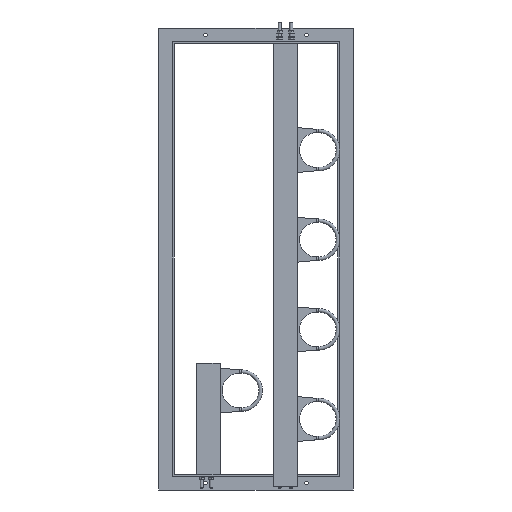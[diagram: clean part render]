
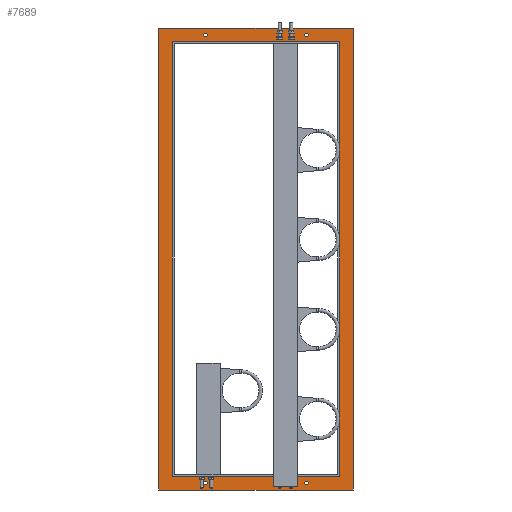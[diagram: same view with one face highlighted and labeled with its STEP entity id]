
A CAD part, front view. The second image highlights one B-rep face of the part: STEP entity #7689.
In plain terms, the highlighted planar face has unit normal (0, -1, 0).
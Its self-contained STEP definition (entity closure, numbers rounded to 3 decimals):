
#6137 = CARTESIAN_POINT ( 'NONE',  ( 339., -5., -1127. ) ) ;
#6138 = DIRECTION ( 'NONE',  ( 0., 1., 0. ) ) ;
#6139 = DIRECTION ( 'NONE',  ( 1., 0., 0. ) ) ;
#6174 = CARTESIAN_POINT ( 'NONE',  ( 339., -5., 22. ) ) ;
#6175 = DIRECTION ( 'NONE',  ( 0., 1., 0. ) ) ;
#6176 = DIRECTION ( 'NONE',  ( 1., 0., 0. ) ) ;
#6189 = CARTESIAN_POINT ( 'NONE',  ( 80., -5., 22. ) ) ;
#6190 = DIRECTION ( 'NONE',  ( 0., 1., 0. ) ) ;
#6191 = DIRECTION ( 'NONE',  ( 1., 0., 0. ) ) ;
#6207 = CARTESIAN_POINT ( 'NONE',  ( 80., -5., -1127. ) ) ;
#6208 = DIRECTION ( 'NONE',  ( 0., 1., 0. ) ) ;
#6209 = DIRECTION ( 'NONE',  ( 1., 0., 0. ) ) ;
#6248 = CARTESIAN_POINT ( 'NONE',  ( -5., -5., -1110. ) ) ;
#6249 = DIRECTION ( 'NONE',  ( 1., 0., 0. ) ) ;
#6668 = CARTESIAN_POINT ( 'NONE',  ( 459., -5., 40. ) ) ;
#6670 = DIRECTION ( 'NONE',  ( -1., 0., 0. ) ) ;
#7689 = ADVANCED_FACE ( 'NONE', ( #10562, #10566, #10563, #10565, #10564, #10567 ), #19388, .T. ) ;
#7753 = VERTEX_POINT ( 'NONE', #18331 ) ;
#7760 = VERTEX_POINT ( 'NONE', #18894 ) ;
#7782 = VERTEX_POINT ( 'NONE', #19107 ) ;
#7789 = VERTEX_POINT ( 'NONE', #18708 ) ;
#7829 = VERTEX_POINT ( 'NONE', #18298 ) ;
#7854 = VERTEX_POINT ( 'NONE', #18567 ) ;
#7929 = VERTEX_POINT ( 'NONE', #19233 ) ;
#8092 = VERTEX_POINT ( 'NONE', #19280 ) ;
#8100 = VERTEX_POINT ( 'NONE', #18646 ) ;
#8113 = VERTEX_POINT ( 'NONE', #18571 ) ;
#8251 = VERTEX_POINT ( 'NONE', #18886 ) ;
#9432 = AXIS2_PLACEMENT_3D ( 'NONE', #6137, #6138, #6139 ) ;
#9439 = AXIS2_PLACEMENT_3D ( 'NONE', #6174, #6175, #6176 ) ;
#9443 = AXIS2_PLACEMENT_3D ( 'NONE', #6189, #6190, #6191 ) ;
#9447 = AXIS2_PLACEMENT_3D ( 'NONE', #6207, #6208, #6209 ) ;
#9567 = AXIS2_PLACEMENT_3D ( 'NONE', #25169, #25170, #25171 ) ;
#9590 = AXIS2_PLACEMENT_3D ( 'NONE', #25315, #25316, #25317 ) ;
#9592 = AXIS2_PLACEMENT_3D ( 'NONE', #25324, #25325, #25326 ) ;
#9594 = AXIS2_PLACEMENT_3D ( 'NONE', #25358, #25359, #25360 ) ;
#10562 = FACE_BOUND ( 'NONE', #23168, .T. ) ;
#10563 = FACE_BOUND ( 'NONE', #23143, .T. ) ;
#10564 = FACE_BOUND ( 'NONE', #23159, .T. ) ;
#10565 = FACE_BOUND ( 'NONE', #23014, .T. ) ;
#10566 = FACE_BOUND ( 'NONE', #23172, .T. ) ;
#10567 = FACE_OUTER_BOUND ( 'NONE', #23160, .T. ) ;
#15226 = CARTESIAN_POINT ( 'NONE',  ( 80., -5., -1131.5 ) ) ;
#15237 = CARTESIAN_POINT ( 'NONE',  ( -5., -5., 5. ) ) ;
#15239 = CARTESIAN_POINT ( 'NONE',  ( 80., -5., 17.5 ) ) ;
#15252 = CARTESIAN_POINT ( 'NONE',  ( -40., -5., -1145. ) ) ;
#15275 = CARTESIAN_POINT ( 'NONE',  ( 424., -5., -1110. ) ) ;
#16871 = CIRCLE ( 'NONE', #9432, 4.5 ) ;
#16914 = CIRCLE ( 'NONE', #9439, 4.5 ) ;
#16922 = CIRCLE ( 'NONE', #9443, 4.5 ) ;
#16941 = CIRCLE ( 'NONE', #9447, 4.5 ) ;
#16990 = LINE ( 'NONE', #6248, #16994 ) ;
#16994 = VECTOR ( 'NONE', #6249, 1000. ) ;
#17286 = LINE ( 'NONE', #6668, #17288 ) ;
#17288 = VECTOR ( 'NONE', #6670, 1000. ) ;
#17644 = LINE ( 'NONE', #25154, #17650 ) ;
#17650 = VECTOR ( 'NONE', #25155, 1000. ) ;
#17659 = CIRCLE ( 'NONE', #9567, 4.5 ) ;
#17661 = LINE ( 'NONE', #25165, #17668 ) ;
#17668 = VECTOR ( 'NONE', #25167, 1000. ) ;
#17774 = LINE ( 'NONE', #25263, #17782 ) ;
#17782 = VECTOR ( 'NONE', #25271, 1000. ) ;
#17801 = LINE ( 'NONE', #25303, #24455 ) ;
#18298 = CARTESIAN_POINT ( 'NONE',  ( 424., -5., 5. ) ) ;
#18302 = DIRECTION ( 'NONE',  ( 1., 0., 0. ) ) ;
#18313 = DIRECTION ( 'NONE',  ( 0., -1., 0. ) ) ;
#18331 = CARTESIAN_POINT ( 'NONE',  ( 339., -5., 26.5 ) ) ;
#18567 = CARTESIAN_POINT ( 'NONE',  ( 459., -5., 40. ) ) ;
#18571 = CARTESIAN_POINT ( 'NONE',  ( -40., -5., 40. ) ) ;
#18646 = CARTESIAN_POINT ( 'NONE',  ( -5., -5., -1110. ) ) ;
#18708 = CARTESIAN_POINT ( 'NONE',  ( 80., -5., -1122.5 ) ) ;
#18886 = CARTESIAN_POINT ( 'NONE',  ( 339., -5., 17.5 ) ) ;
#18894 = CARTESIAN_POINT ( 'NONE',  ( 459., -5., -1145. ) ) ;
#19107 = CARTESIAN_POINT ( 'NONE',  ( 339., -5., -1122.5 ) ) ;
#19233 = CARTESIAN_POINT ( 'NONE',  ( 80., -5., 26.5 ) ) ;
#19280 = CARTESIAN_POINT ( 'NONE',  ( 339., -5., -1131.5 ) ) ;
#19325 = CARTESIAN_POINT ( 'NONE',  ( -5., -5., -1258.137 ) ) ;
#19388 = PLANE ( 'NONE',  #24675 ) ;
#21162 = ORIENTED_EDGE ( 'NONE', *, *, #25949, .T. ) ;
#21175 = ORIENTED_EDGE ( 'NONE', *, *, #26156, .T. ) ;
#21176 = ORIENTED_EDGE ( 'NONE', *, *, #26124, .T. ) ;
#21177 = ORIENTED_EDGE ( 'NONE', *, *, #26135, .F. ) ;
#21178 = ORIENTED_EDGE ( 'NONE', *, *, #26157, .F. ) ;
#21179 = ORIENTED_EDGE ( 'NONE', *, *, #26080, .F. ) ;
#21180 = ORIENTED_EDGE ( 'NONE', *, *, #26085, .T. ) ;
#21181 = ORIENTED_EDGE ( 'NONE', *, *, #25818, .F. ) ;
#21182 = ORIENTED_EDGE ( 'NONE', *, *, #25793, .T. ) ;
#21183 = ORIENTED_EDGE ( 'NONE', *, *, #26086, .T. ) ;
#21213 = ORIENTED_EDGE ( 'NONE', *, *, #25789, .T. ) ;
#21214 = ORIENTED_EDGE ( 'NONE', *, *, #25775, .T. ) ;
#21215 = ORIENTED_EDGE ( 'NONE', *, *, #26149, .T. ) ;
#21224 = ORIENTED_EDGE ( 'NONE', *, *, #25800, .T. ) ;
#21251 = ORIENTED_EDGE ( 'NONE', *, *, #26137, .T. ) ;
#21254 = ORIENTED_EDGE ( 'NONE', *, *, #26139, .T. ) ;
#23014 = EDGE_LOOP ( 'NONE', ( #21183, #21182 ) ) ;
#23143 = EDGE_LOOP ( 'NONE', ( #21215, #21224 ) ) ;
#23159 = EDGE_LOOP ( 'NONE', ( #21181, #21180, #21179, #21178 ) ) ;
#23160 = EDGE_LOOP ( 'NONE', ( #21177, #21176, #21175, #21162 ) ) ;
#23168 = EDGE_LOOP ( 'NONE', ( #21254, #21213 ) ) ;
#23172 = EDGE_LOOP ( 'NONE', ( #21251, #21214 ) ) ;
#24455 = VECTOR ( 'NONE', #25312, 1000. ) ;
#24456 = CIRCLE ( 'NONE', #9590, 4.5 ) ;
#24460 = CIRCLE ( 'NONE', #9592, 4.5 ) ;
#24473 = CIRCLE ( 'NONE', #9594, 4.5 ) ;
#24481 = LINE ( 'NONE', #25382, #24484 ) ;
#24483 = LINE ( 'NONE', #25384, #24486 ) ;
#24484 = VECTOR ( 'NONE', #25383, 1000. ) ;
#24486 = VECTOR ( 'NONE', #25385, 1000. ) ;
#24675 = AXIS2_PLACEMENT_3D ( 'NONE', #19325, #18313, #18302 ) ;
#25154 = CARTESIAN_POINT ( 'NONE',  ( 424., -5., 5. ) ) ;
#25155 = DIRECTION ( 'NONE',  ( -1., 0., 0. ) ) ;
#25165 = CARTESIAN_POINT ( 'NONE',  ( -5., -5., -1258.137 ) ) ;
#25167 = DIRECTION ( 'NONE',  ( 0., 0., 1. ) ) ;
#25169 = CARTESIAN_POINT ( 'NONE',  ( 80., -5., 22. ) ) ;
#25170 = DIRECTION ( 'NONE',  ( 0., 1., 0. ) ) ;
#25171 = DIRECTION ( 'NONE',  ( 1., 0., 0. ) ) ;
#25263 = CARTESIAN_POINT ( 'NONE',  ( -40., -5., -1145. ) ) ;
#25271 = DIRECTION ( 'NONE',  ( 1., 0., 0. ) ) ;
#25303 = CARTESIAN_POINT ( 'NONE',  ( -40., -5., -1258.137 ) ) ;
#25312 = DIRECTION ( 'NONE',  ( 0., 0., 1. ) ) ;
#25315 = CARTESIAN_POINT ( 'NONE',  ( 339., -5., -1127. ) ) ;
#25316 = DIRECTION ( 'NONE',  ( 0., 1., 0. ) ) ;
#25317 = DIRECTION ( 'NONE',  ( 1., 0., 0. ) ) ;
#25324 = CARTESIAN_POINT ( 'NONE',  ( 339., -5., 22. ) ) ;
#25325 = DIRECTION ( 'NONE',  ( 0., 1., 0. ) ) ;
#25326 = DIRECTION ( 'NONE',  ( 1., 0., 0. ) ) ;
#25358 = CARTESIAN_POINT ( 'NONE',  ( 80., -5., -1127. ) ) ;
#25359 = DIRECTION ( 'NONE',  ( 0., 1., 0. ) ) ;
#25360 = DIRECTION ( 'NONE',  ( 1., 0., 0. ) ) ;
#25382 = CARTESIAN_POINT ( 'NONE',  ( 459., -5., -1145. ) ) ;
#25383 = DIRECTION ( 'NONE',  ( 0., 0., 1. ) ) ;
#25384 = CARTESIAN_POINT ( 'NONE',  ( 424., -5., -1110. ) ) ;
#25385 = DIRECTION ( 'NONE',  ( 0., 0., 1. ) ) ;
#25775 = EDGE_CURVE ( 'NONE', #8092, #7782, #16871, .T. ) ;
#25789 = EDGE_CURVE ( 'NONE', #8251, #7753, #16914, .T. ) ;
#25793 = EDGE_CURVE ( 'NONE', #26765, #7929, #16922, .T. ) ;
#25800 = EDGE_CURVE ( 'NONE', #26752, #7789, #16941, .T. ) ;
#25818 = EDGE_CURVE ( 'NONE', #8100, #26801, #16990, .T. ) ;
#25949 = EDGE_CURVE ( 'NONE', #7854, #8113, #17286, .T. ) ;
#26080 = EDGE_CURVE ( 'NONE', #7829, #26763, #17644, .T. ) ;
#26085 = EDGE_CURVE ( 'NONE', #8100, #26763, #17661, .T. ) ;
#26086 = EDGE_CURVE ( 'NONE', #7929, #26765, #17659, .T. ) ;
#26124 = EDGE_CURVE ( 'NONE', #26778, #7760, #17774, .T. ) ;
#26135 = EDGE_CURVE ( 'NONE', #26778, #8113, #17801, .T. ) ;
#26137 = EDGE_CURVE ( 'NONE', #7782, #8092, #24456, .T. ) ;
#26139 = EDGE_CURVE ( 'NONE', #7753, #8251, #24460, .T. ) ;
#26149 = EDGE_CURVE ( 'NONE', #7789, #26752, #24473, .T. ) ;
#26156 = EDGE_CURVE ( 'NONE', #7760, #7854, #24481, .T. ) ;
#26157 = EDGE_CURVE ( 'NONE', #26801, #7829, #24483, .T. ) ;
#26752 = VERTEX_POINT ( 'NONE', #15226 ) ;
#26763 = VERTEX_POINT ( 'NONE', #15237 ) ;
#26765 = VERTEX_POINT ( 'NONE', #15239 ) ;
#26778 = VERTEX_POINT ( 'NONE', #15252 ) ;
#26801 = VERTEX_POINT ( 'NONE', #15275 ) ;
